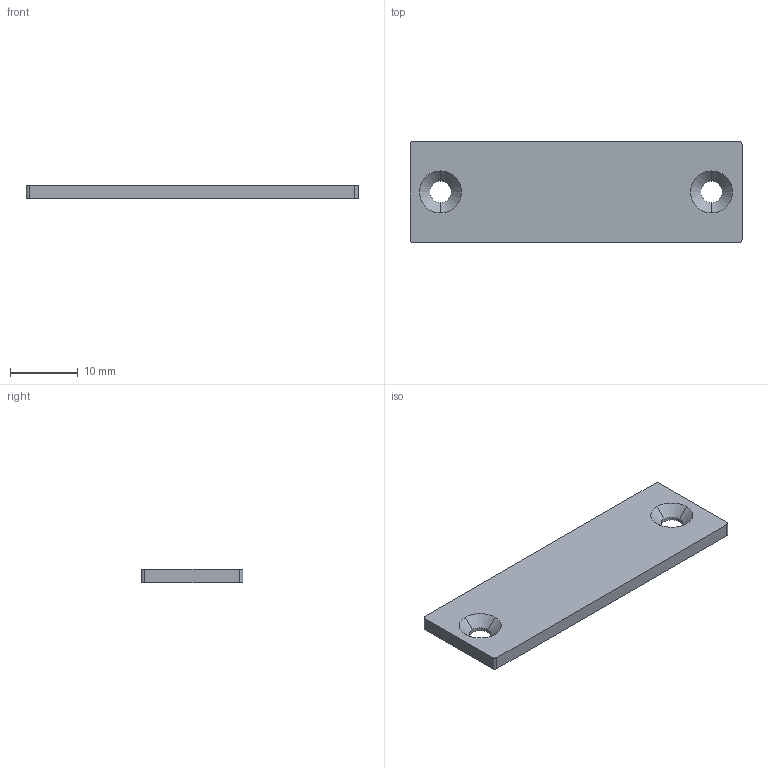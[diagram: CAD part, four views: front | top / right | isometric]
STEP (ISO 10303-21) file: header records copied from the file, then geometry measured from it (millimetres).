
FILE_DESCRIPTION((''),'2;1');
FILE_NAME('6470.26.30.stp','2023-10-12T13:04:13',(''),(''),'Mechanical Desktop 2006','Mechanical Desktop 2006',', , ');
FILE_SCHEMA(('CONFIG_CONTROL_DESIGN'));
Length unit declared in the file: millimetre
Products named in the file (3): 6470.26.30; 1; 1A
Assembly tree (1 placements, depth 2):
  6470.26.30
    1
  1A
Bounding box: 49 x 15 x 2 mm (x, y, z)
Volume: 1407.7 mm3; surface area: 1720.1 mm2
Topology: 1 solids, 1 shells, 22 faces, 56 edges, 36 vertices
Faces by surface type: cone 8, cylinder 8, plane 6
Entity records: 889 total; most frequent: DIRECTION 134, CARTESIAN_POINT 117, ORIENTED_EDGE 112, EDGE_CURVE 56, AXIS2_PLACEMENT_3D 53, VERTEX_POINT 36, VECTOR 28, LINE 28
